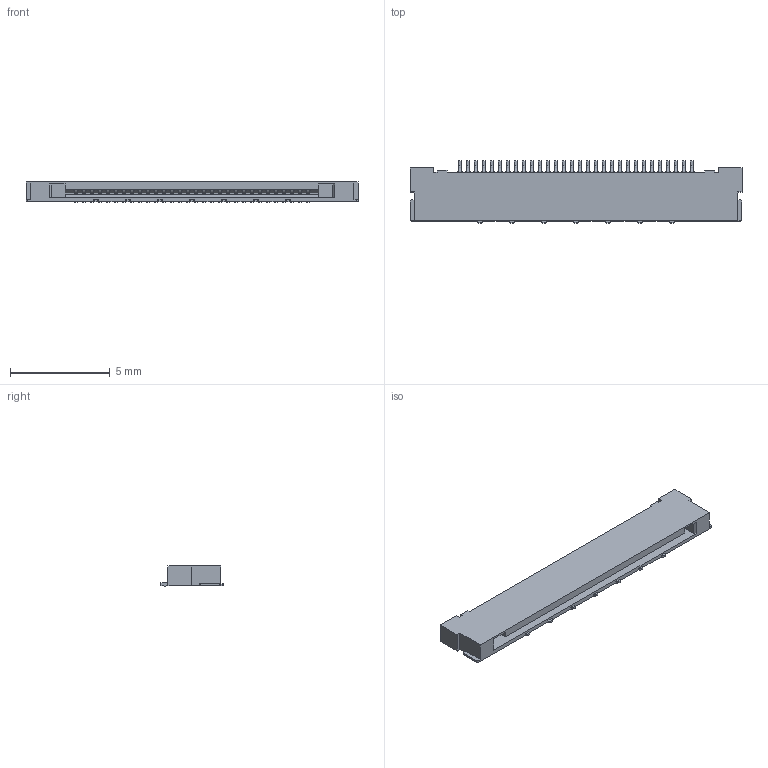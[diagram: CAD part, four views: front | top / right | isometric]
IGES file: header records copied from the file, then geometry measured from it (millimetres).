
Start section: Elysium IGES Interface
Global section: file name: C:\Users\1088\Desktop\P39377_USL00-30L\P39377_USL00-30L.igs; native system: Creo Elements/Direct Modeling 19.0F  14-Feb-2017; preprocessor: Creo Element/Direct IGES_3D V2.2; author: Unknown; organization: Unknown; date: 20171011.142041; units: millimetre
Bounding box: 16.6 x 3.1 x 1 mm (x, y, z)
Volume: 31.5 mm3; surface area: 198.7 mm2
Topology: 1 solids, 1 shells, 779 faces, 2328 edges, 1552 vertices
Faces by surface type: bspline 779
